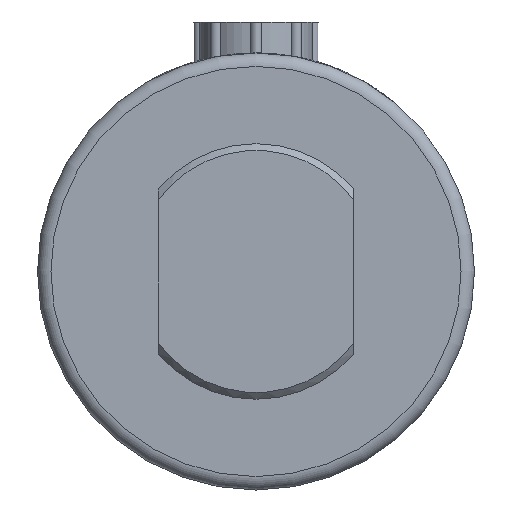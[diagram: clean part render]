
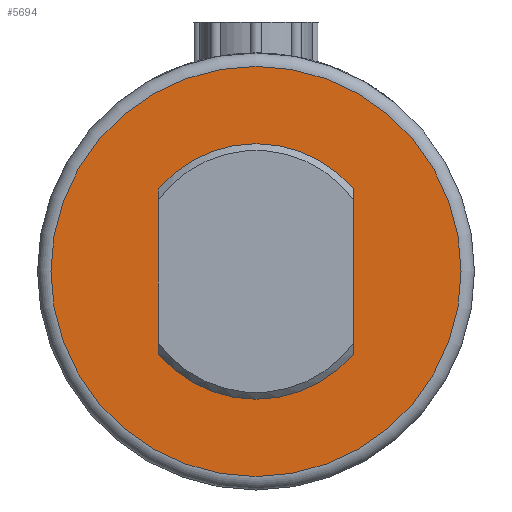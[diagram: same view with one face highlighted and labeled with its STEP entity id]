
A CAD part, left-side view. The second image highlights one B-rep face of the part: STEP entity #5694.
In plain terms, the highlighted planar face has unit normal (-1, 0, 0).
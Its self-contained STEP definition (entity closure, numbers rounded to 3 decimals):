
#565=PLANE('',#6102);
#708=FACE_OUTER_BOUND('',#1029,.T.);
#1029=EDGE_LOOP('',(#3824,#3825));
#1963=CIRCLE('',#6099,30.5);
#1964=CIRCLE('',#6100,30.5);
#2239=VERTEX_POINT('',#8035);
#2240=VERTEX_POINT('',#8037);
#2857=EDGE_CURVE('',#2239,#2240,#1963,.T.);
#2858=EDGE_CURVE('',#2240,#2239,#1964,.T.);
#3824=ORIENTED_EDGE('',*,*,#2858,.F.);
#3825=ORIENTED_EDGE('',*,*,#2857,.F.);
#5694=ADVANCED_FACE('',(#708),#565,.T.);
#6099=AXIS2_PLACEMENT_3D('',#8038,#6707,#6708);
#6100=AXIS2_PLACEMENT_3D('',#8039,#6709,#6710);
#6102=AXIS2_PLACEMENT_3D('',#8041,#6713,#6714);
#6707=DIRECTION('center_axis',(1.,0.,0.));
#6708=DIRECTION('ref_axis',(0.,-1.,0.));
#6709=DIRECTION('center_axis',(1.,0.,0.));
#6710=DIRECTION('ref_axis',(0.,-1.,0.));
#6713=DIRECTION('center_axis',(-1.,0.,0.));
#6714=DIRECTION('ref_axis',(0.,0.,1.));
#8035=CARTESIAN_POINT('',(-58.,0.,30.5));
#8037=CARTESIAN_POINT('',(-58.,30.5,0.));
#8038=CARTESIAN_POINT('Origin',(-58.,0.,0.));
#8039=CARTESIAN_POINT('Origin',(-58.,0.,0.));
#8041=CARTESIAN_POINT('Origin',(-58.,20.25,0.));
